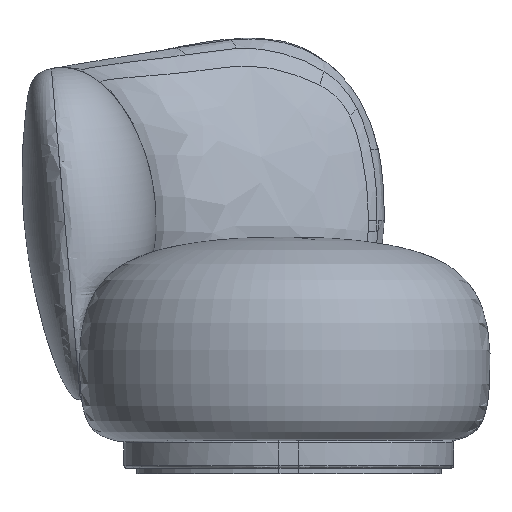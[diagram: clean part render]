
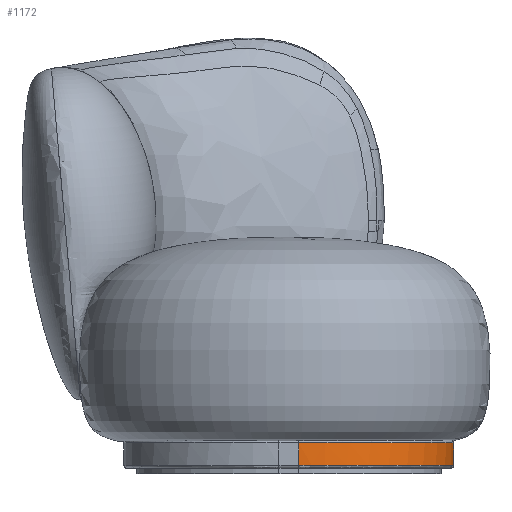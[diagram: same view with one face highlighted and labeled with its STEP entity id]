
A CAD part, left-side view. The second image highlights one B-rep face of the part: STEP entity #1172.
In plain terms, the highlighted free-form (B-spline) face has degree [1, 2] with [2, 9] control points.
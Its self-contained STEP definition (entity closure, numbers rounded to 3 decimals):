
#185=B_SPLINE_CURVE_WITH_KNOTS('',1,(#11223,#11224),.UNSPECIFIED.,.F.,.F.,
(2,2),(-40.,0.),.UNSPECIFIED.);
#188=B_SPLINE_CURVE_WITH_KNOTS('',1,(#11298,#11299),.UNSPECIFIED.,.F.,.F.,
(2,2),(0.,40.),.UNSPECIFIED.);
#1172=ADVANCED_FACE('',(#1574),#6852,.T.);
#1574=FACE_OUTER_BOUND('',#2020,.T.);
#2020=EDGE_LOOP('',(#2798,#2799,#2800,#2801));
#2798=ORIENTED_EDGE('',*,*,#4807,.F.);
#2799=ORIENTED_EDGE('',*,*,#4806,.F.);
#2800=ORIENTED_EDGE('',*,*,#4789,.F.);
#2801=ORIENTED_EDGE('',*,*,#4805,.F.);
#4789=EDGE_CURVE('',#6178,#6179,#185,.T.);
#4805=EDGE_CURVE('',#6180,#6178,#5845,.T.);
#4806=EDGE_CURVE('',#6179,#6181,#5846,.T.);
#4807=EDGE_CURVE('',#6181,#6180,#188,.T.);
#5845=(
BOUNDED_CURVE()
B_SPLINE_CURVE(2,(#11292,#11293,#11294),.UNSPECIFIED.,.F.,.F.)
B_SPLINE_CURVE_WITH_KNOTS((3,3),(0.,431.969),.UNSPECIFIED.)
CURVE()
GEOMETRIC_REPRESENTATION_ITEM()
RATIONAL_B_SPLINE_CURVE((1.,0.707,1.))
REPRESENTATION_ITEM('')
);
#5846=(
BOUNDED_CURVE()
B_SPLINE_CURVE(2,(#11295,#11296,#11297),.UNSPECIFIED.,.F.,.F.)
B_SPLINE_CURVE_WITH_KNOTS((3,3),(0.,431.969),.UNSPECIFIED.)
CURVE()
GEOMETRIC_REPRESENTATION_ITEM()
RATIONAL_B_SPLINE_CURVE((1.,0.707,1.))
REPRESENTATION_ITEM('')
);
#6178=VERTEX_POINT('',#10642);
#6179=VERTEX_POINT('',#10643);
#6180=VERTEX_POINT('',#10644);
#6181=VERTEX_POINT('',#10645);
#6852=(
BOUNDED_SURFACE()
B_SPLINE_SURFACE(1,2,((#9870,#9871,#9872,#9873,#9874,#9875,#9876,#9877,
#9878),(#9879,#9880,#9881,#9882,#9883,#9884,#9885,#9886,#9887)),
 .UNSPECIFIED.,.F.,.F.,.F.)
B_SPLINE_SURFACE_WITH_KNOTS((2,2),(3,2,2,2,3),(0.,48.),(0.,431.969,
863.938,1295.907,1727.876),.UNSPECIFIED.)
GEOMETRIC_REPRESENTATION_ITEM()
RATIONAL_B_SPLINE_SURFACE(((1.,0.707,1.,0.707,1.,
0.707,1.,0.707,1.),(1.,0.707,1.,0.707,
1.,0.707,1.,0.707,1.)))
REPRESENTATION_ITEM('')
SURFACE()
);
#9870=CARTESIAN_POINT('',(-14.618,224.727,59.017));
#9871=CARTESIAN_POINT('',(-289.618,224.727,59.017));
#9872=CARTESIAN_POINT('',(-289.618,-50.273,59.017));
#9873=CARTESIAN_POINT('',(-289.618,-325.273,59.017));
#9874=CARTESIAN_POINT('',(-14.618,-325.273,59.017));
#9875=CARTESIAN_POINT('',(260.382,-325.273,59.017));
#9876=CARTESIAN_POINT('',(260.382,-50.273,59.017));
#9877=CARTESIAN_POINT('',(260.382,224.727,59.017));
#9878=CARTESIAN_POINT('',(-14.618,224.727,59.017));
#9879=CARTESIAN_POINT('',(-14.618,224.727,11.017));
#9880=CARTESIAN_POINT('',(-289.618,224.727,11.017));
#9881=CARTESIAN_POINT('',(-289.618,-50.273,11.017));
#9882=CARTESIAN_POINT('',(-289.618,-325.273,11.017));
#9883=CARTESIAN_POINT('',(-14.618,-325.273,11.017));
#9884=CARTESIAN_POINT('',(260.382,-325.273,11.017));
#9885=CARTESIAN_POINT('',(260.382,-50.273,11.017));
#9886=CARTESIAN_POINT('',(260.382,224.727,11.017));
#9887=CARTESIAN_POINT('',(-14.618,224.727,11.017));
#10642=CARTESIAN_POINT('',(-289.618,-50.273,15.017));
#10643=CARTESIAN_POINT('',(-289.618,-50.273,55.017));
#10644=CARTESIAN_POINT('',(-14.618,-325.273,15.017));
#10645=CARTESIAN_POINT('',(-14.618,-325.273,55.017));
#11223=CARTESIAN_POINT('',(-289.618,-50.273,15.017));
#11224=CARTESIAN_POINT('',(-289.618,-50.273,55.017));
#11292=CARTESIAN_POINT('',(-14.618,-325.273,15.017));
#11293=CARTESIAN_POINT('',(-289.618,-325.273,15.017));
#11294=CARTESIAN_POINT('',(-289.618,-50.273,15.017));
#11295=CARTESIAN_POINT('',(-289.618,-50.273,55.017));
#11296=CARTESIAN_POINT('',(-289.618,-325.273,55.017));
#11297=CARTESIAN_POINT('',(-14.618,-325.273,55.017));
#11298=CARTESIAN_POINT('',(-14.618,-325.273,55.017));
#11299=CARTESIAN_POINT('',(-14.618,-325.273,15.017));
